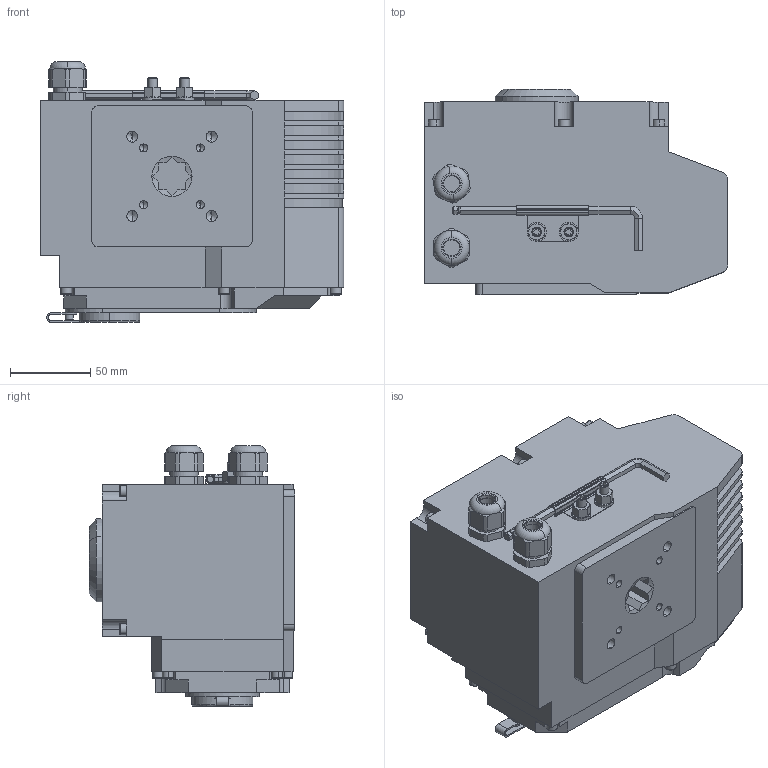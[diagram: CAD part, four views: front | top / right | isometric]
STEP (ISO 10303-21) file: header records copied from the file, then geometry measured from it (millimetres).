
FILE_DESCRIPTION (( 'STEP AP203' ), '1' );
FILE_NAME ('AOX_010-015_3D.STEP', '2021-04-27T05:57:26', ( '' ), ( '' ), 'SwSTEP 2.0', 'SolidWorks 2017', '' );
FILE_SCHEMA (( 'CONFIG_CONTROL_DESIGN' ));
Length unit declared in the file: millimetre
Products named in the file (1): AOX_010-015_3D
Bounding box: 189 x 128 x 162.5 mm (x, y, z)
Volume: 2421352.8 mm3; surface area: 146859 mm2
Topology: 1 solids, 8 shells, 749 faces, 1877 edges, 1149 vertices
Faces by surface type: plane 430, cylinder 180, cone 100, torus 39
Entity records: 22355 total; most frequent: CARTESIAN_POINT 4390, DIRECTION 3794, ORIENTED_EDGE 3666, EDGE_CURVE 1833, AXIS2_PLACEMENT_3D 1325, VERTEX_POINT 1149, LINE 1144, VECTOR 1144
